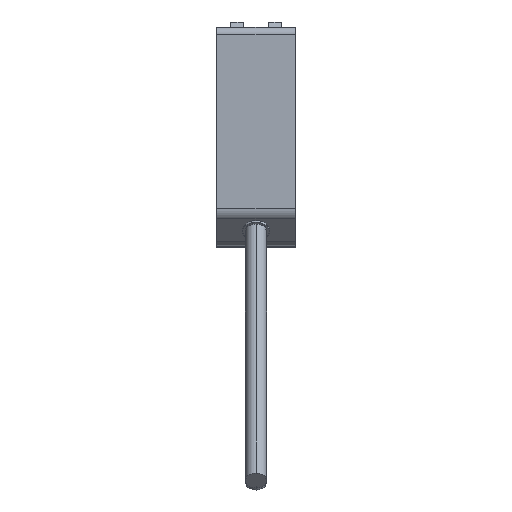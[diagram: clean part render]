
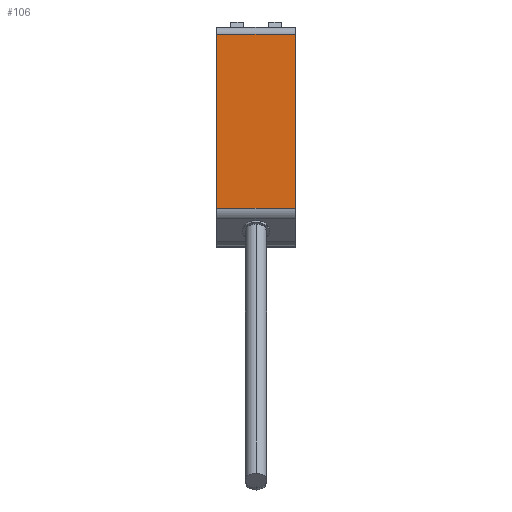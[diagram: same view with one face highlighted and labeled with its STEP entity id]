
A CAD part, top view. The second image highlights one B-rep face of the part: STEP entity #106.
In plain terms, the highlighted planar face has unit normal (0, 0, 1) as drawn and (0, 0, -1) by its records, which use the part's own axes.
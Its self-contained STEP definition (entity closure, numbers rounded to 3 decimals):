
#80 = CARTESIAN_POINT ( 'NONE',  ( 5.6, 15.5, -20. ) ) ;
#83 = LINE ( 'NONE', #96, #895 ) ;
#96 = CARTESIAN_POINT ( 'NONE',  ( -5.6, 15.5, -20. ) ) ;
#106 = ADVANCED_FACE ( 'NONE', ( #658 ), #771, .F. ) ;
#130 = VERTEX_POINT ( 'NONE', #780 ) ;
#190 = DIRECTION ( 'NONE',  ( 0., 0., 1. ) ) ;
#198 = LINE ( 'NONE', #294, #259 ) ;
#225 = VERTEX_POINT ( 'NONE', #933 ) ;
#235 = EDGE_CURVE ( 'NONE', #587, #282, #821, .T. ) ;
#259 = VECTOR ( 'NONE', #418, 1000. ) ;
#282 = VERTEX_POINT ( 'NONE', #1080 ) ;
#294 = CARTESIAN_POINT ( 'NONE',  ( 5.6, 14.5, -20. ) ) ;
#340 = CARTESIAN_POINT ( 'NONE',  ( 5.6, 15.5, -20. ) ) ;
#360 = CARTESIAN_POINT ( 'NONE',  ( -5.6, -10.172, -20. ) ) ;
#380 = ORIENTED_EDGE ( 'NONE', *, *, #1233, .T. ) ;
#418 = DIRECTION ( 'NONE',  ( 1., 0., 0. ) ) ;
#430 = DIRECTION ( 'NONE',  ( 0., 1., 0. ) ) ;
#455 = ORIENTED_EDGE ( 'NONE', *, *, #235, .F. ) ;
#471 = AXIS2_PLACEMENT_3D ( 'NONE', #80, #190, #1362 ) ;
#587 = VERTEX_POINT ( 'NONE', #673 ) ;
#610 = ORIENTED_EDGE ( 'NONE', *, *, #904, .T. ) ;
#658 = FACE_OUTER_BOUND ( 'NONE', #1149, .T. ) ;
#673 = CARTESIAN_POINT ( 'NONE',  ( 5.6, -10.172, -20. ) ) ;
#734 = DIRECTION ( 'NONE',  ( -1., 0., 0. ) ) ;
#747 = VECTOR ( 'NONE', #734, 1000. ) ;
#771 = PLANE ( 'NONE',  #471 ) ;
#780 = CARTESIAN_POINT ( 'NONE',  ( -5.6, 14.5, -20. ) ) ;
#821 = LINE ( 'NONE', #340, #1231 ) ;
#895 = VECTOR ( 'NONE', #430, 1000. ) ;
#904 = EDGE_CURVE ( 'NONE', #225, #130, #83, .T. ) ;
#933 = CARTESIAN_POINT ( 'NONE',  ( -5.6, -10.172, -20. ) ) ;
#1080 = CARTESIAN_POINT ( 'NONE',  ( 5.6, 14.5, -20. ) ) ;
#1149 = EDGE_LOOP ( 'NONE', ( #455, #380, #610, #1415 ) ) ;
#1231 = VECTOR ( 'NONE', #1283, 1000. ) ;
#1233 = EDGE_CURVE ( 'NONE', #587, #225, #1401, .T. ) ;
#1283 = DIRECTION ( 'NONE',  ( 0., 1., 0. ) ) ;
#1362 = DIRECTION ( 'NONE',  ( 0., -1., 0. ) ) ;
#1375 = EDGE_CURVE ( 'NONE', #130, #282, #198, .T. ) ;
#1401 = LINE ( 'NONE', #360, #747 ) ;
#1415 = ORIENTED_EDGE ( 'NONE', *, *, #1375, .T. ) ;
